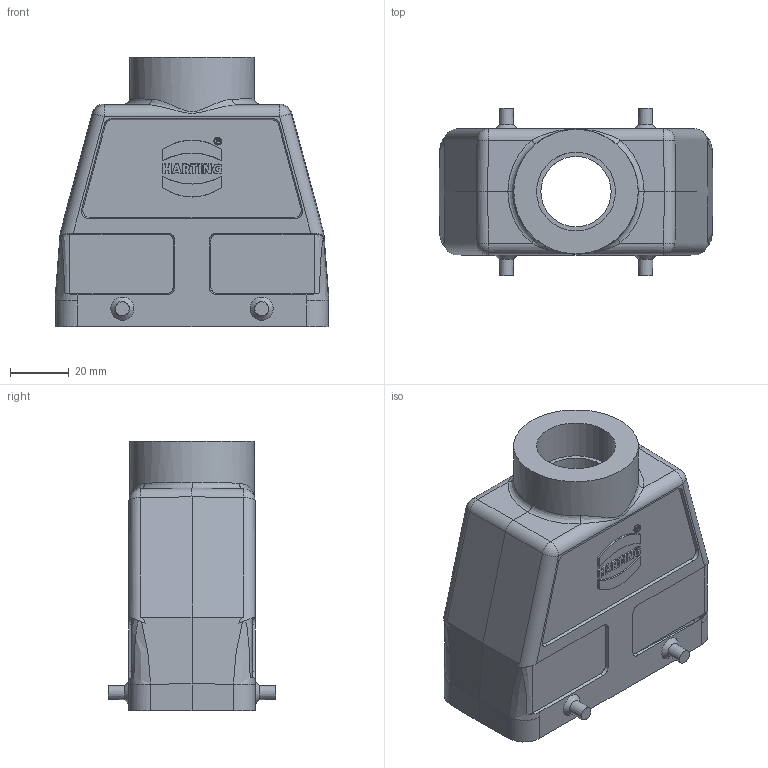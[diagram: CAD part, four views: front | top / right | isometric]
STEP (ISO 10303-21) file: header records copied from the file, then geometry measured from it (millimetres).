
FILE_DESCRIPTION(/* description */ (''),/* implementation_level */ '2;1');
FILE_NAME(/* name */ '100195543ugm000_c.stp',/* time_stamp */ '2024-03-13T15:29:22+01:00',/* author */ (''),/* organization */ (''),/* preprocessor_version */ 'ST-DEVELOPER v19.3',/* originating_system */ 'SIEMENS PLM Software NX2212.6000',/* authorisation */ '');
FILE_SCHEMA (('AUTOMOTIVE_DESIGN { 1 0 10303 214 3 1 1 1 }'));
Length unit declared in the file: millimetre
Products named in the file (1): 100195543ugm000_c
Bounding box: 93.5 x 57.2 x 92 mm (x, y, z)
Volume: 78826.4 mm3; surface area: 45212.1 mm2
Topology: 1 solids, 1 shells, 259 faces, 662 edges, 434 vertices
Faces by surface type: plane 170, cylinder 49, cone 20, bspline 16, sphere 4
Full cylindrical faces by diameter (mm): 3 x4, 24 x1, 26.9 x1, 42.5 x1
Entity records: 9367 total; most frequent: CARTESIAN_POINT 2525, ORIENTED_EDGE 1282, DIRECTION 1198, EDGE_CURVE 641, LINE 434, VECTOR 434, VERTEX_POINT 428, AXIS2_PLACEMENT_3D 382
